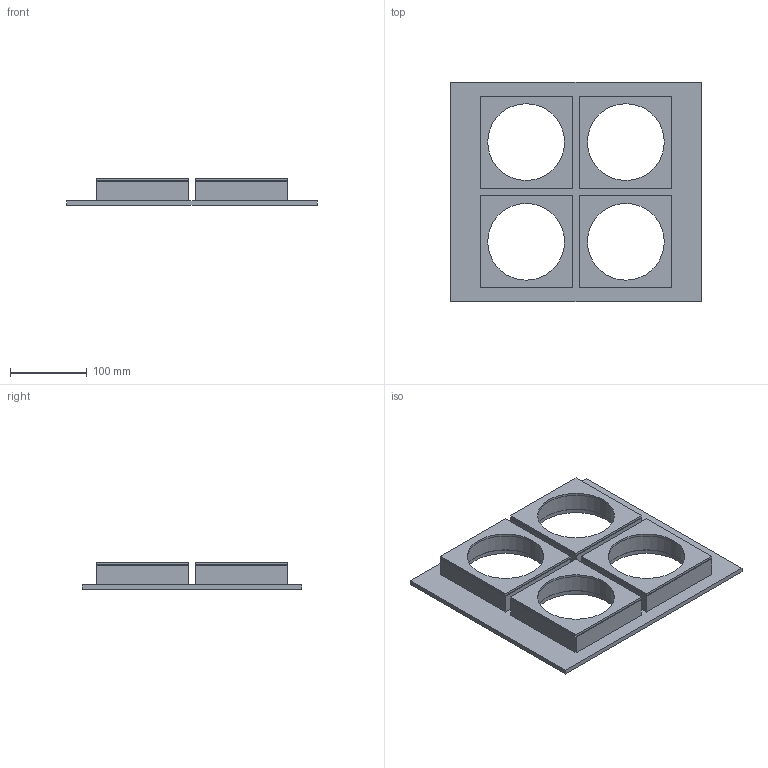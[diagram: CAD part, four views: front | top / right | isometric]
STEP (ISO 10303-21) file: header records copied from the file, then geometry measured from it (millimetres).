
FILE_DESCRIPTION(('Open CASCADE Model'),'2;1');
FILE_NAME('Open CASCADE Shape Model','2026-10-16T21:03:11',('Author'),( 'Open CASCADE'),'Open CASCADE STEP processor 7.8','Open CASCADE 7.8' ,'Unknown');
FILE_SCHEMA(('AUTOMOTIVE_DESIGN { 1 0 10303 214 1 1 1 1 }'));
Length unit declared in the file: millimetre
Products named in the file (10): four_fan_outlet_review; FF01; FF02; FG01; FF03; FG02; FF04; FG03; FF05; FG04
Assembly tree (9 placements, depth 2):
  four_fan_outlet_review
    FF01
    FF02
    FG01
    FF03
    FG02
    FF04
    FG03
    FF05
    FG04
Bounding box: 326 x 286 x 35 mm (x, y, z)
Volume: 891187.6 mm3; surface area: 307073.4 mm2
Topology: 9 solids, 9 shells, 66 faces, 144 edges, 96 vertices
Faces by surface type: plane 54, cylinder 12
Full cylindrical faces by diameter (mm): 100 x4, 110 x4, 112 x4
Entity records: 3940 total; most frequent: CARTESIAN_POINT 748, DIRECTION 584, LINE 384, VECTOR 384, ORIENTED_EDGE 288, PCURVE 288, DEFINITIONAL_REPRESENTATION 288, EDGE_CURVE 144
